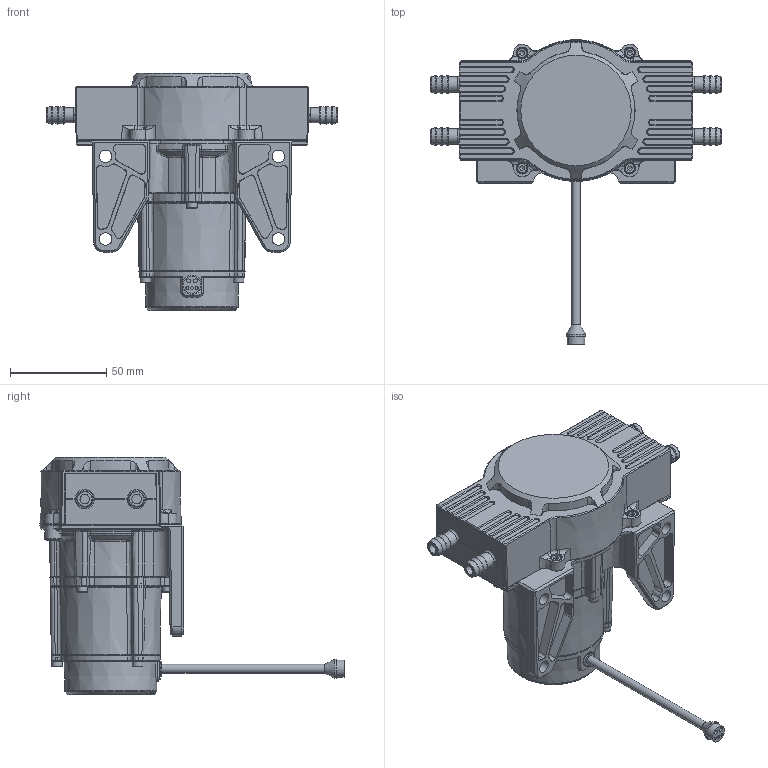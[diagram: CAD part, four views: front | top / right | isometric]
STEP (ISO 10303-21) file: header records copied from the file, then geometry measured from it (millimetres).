
FILE_DESCRIPTION (( 'STEP AP214' ), '1' );
FILE_NAME ('305520004B0-COMBO-PUMP-12L-brushless-10A-18S-V3-HW-20231024.STEP', '2023-10-25T00:42:35', ( '' ), ( '' ), 'SwSTEP 2.0', 'SolidWorks 2021', '' );
FILE_SCHEMA (( 'AUTOMOTIVE_DESIGN' ));
Length unit declared in the file: millimetre
Products named in the file (1): 305520004B0-COMBO-PUMP-12L-brushless-10A-18S-V3-HW-20231024
Bounding box: 151 x 158.18 x 123.5 mm (x, y, z)
Volume: 439314.2 mm3; surface area: 108197.5 mm2
Topology: 23 solids, 27 shells, 1708 faces, 4087 edges, 2491 vertices
Faces by surface type: plane 720, bspline 352, cone 321, cylinder 215, torus 84, sphere 16
Full cylindrical faces by diameter (mm): 1.25 x4, 1.4 x3, 2 x3, 2.5 x13, 3 x13, 3.2 x3, 3.4 x6, 4.5 x3, 4.6 x2, 4.8 x2, 5 x1, 5.5 x13, 6 x4, 6.6 x5, 7 x1, 8 x5, 9 x5, 10 x1, 10.5 x4, 15 x4
Entity records: 87232 total; most frequent: CARTESIAN_POINT 33694, ORIENTED_EDGE 7482, DIRECTION 6204, EDGE_CURVE 3741, VERTEX_POINT 2395, AXIS2_PLACEMENT_3D 2344, EDGE_LOOP 2064, FACE_OUTER_BOUND 1850
